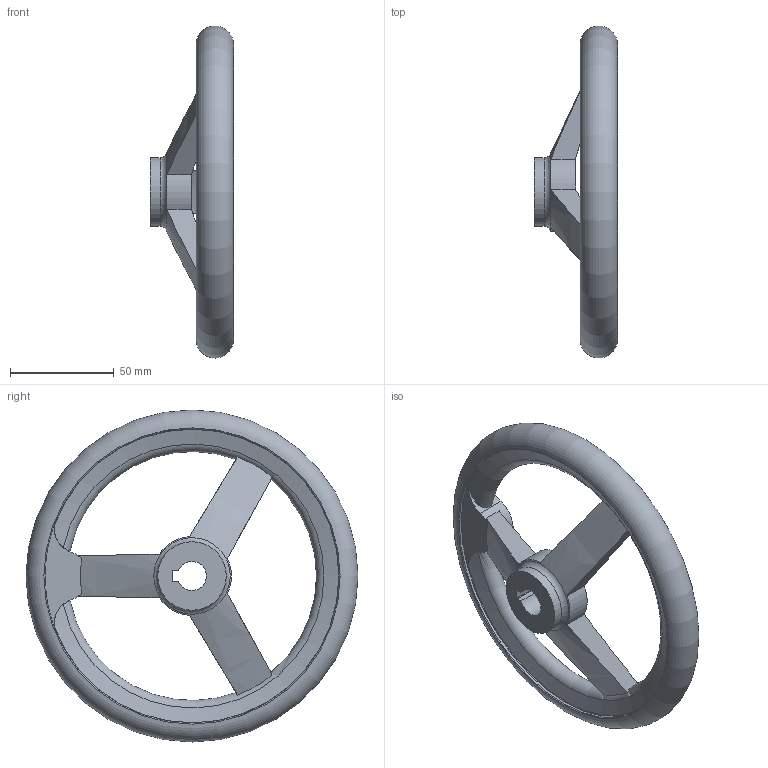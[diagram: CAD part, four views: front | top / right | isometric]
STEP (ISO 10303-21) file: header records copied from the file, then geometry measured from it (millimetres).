
FILE_DESCRIPTION( ( 'STEP AP203' ), '1' );
FILE_NAME( 'C:/Temp/Ganter_Step_05_03_2020/data/1_3/din_950/din_950_k/din_950_k_a/Handwheel DIN 950-GG-160-K14-A.stp', '2020-03-05T10:30:33', ( 'License CC BY-ND 4.0' ), ( 'CADENAS' ), ' ', 'PARTsolutions', ' ' );
FILE_SCHEMA( ( 'CONFIG_CONTROL_DESIGN' ) );
Length unit declared in the file: millimetre
Products named in the file (1): _Handwheel DIN 950-GG-160-K14-A
Bounding box: 40 x 159.99 x 159.99 mm (x, y, z)
Volume: 151773 mm3; surface area: 39054 mm2
Topology: 1 solids, 1 shells, 40 faces, 116 edges, 74 vertices
Faces by surface type: cylinder 13, plane 13, torus 10, cone 4
Full cylindrical faces by diameter (mm): 33 x2, 142 x2
Entity records: 1592 total; most frequent: CARTESIAN_POINT 582, ORIENTED_EDGE 198, DIRECTION 192, EDGE_CURVE 99, AXIS2_PLACEMENT_3D 85, VERTEX_POINT 71, EDGE_LOOP 57, FACE_OUTER_BOUND 51
